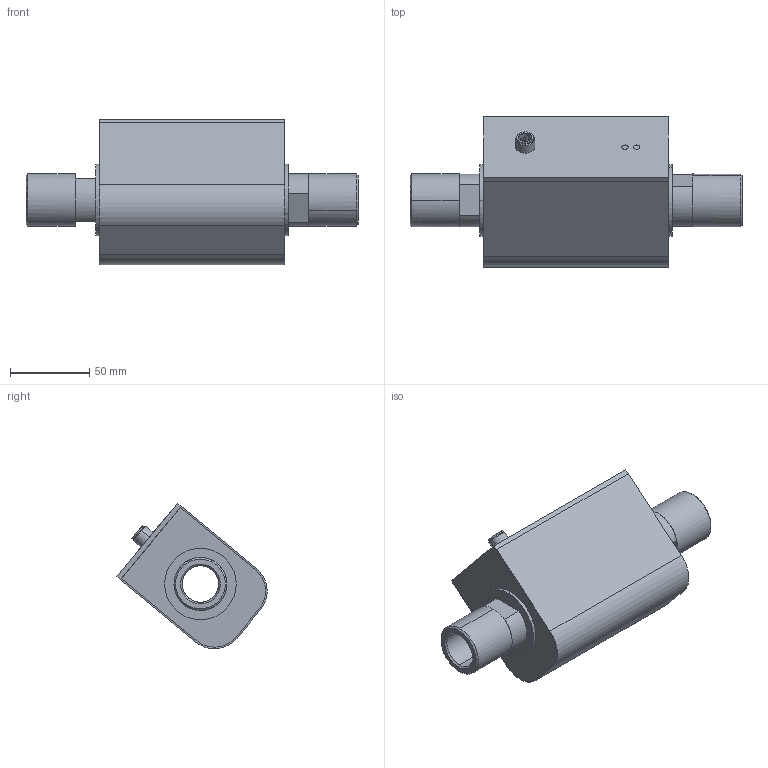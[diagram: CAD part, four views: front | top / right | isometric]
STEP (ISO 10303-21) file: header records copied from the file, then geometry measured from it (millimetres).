
FILE_DESCRIPTION (( 'STEP AP203' ), '1' );
FILE_NAME ('F32_Thread_DN25.STEP', '2020-05-08T08:03:53', ( 'Uživatel systému Windows' ), ( '' ), 'SwSTEP 2.0', 'SolidWorks 2017', '' );
FILE_SCHEMA (( 'CONFIG_CONTROL_DESIGN' ));
Length unit declared in the file: millimetre
Products named in the file (8): FPW_Svìtlovod; FPW_Svìtlovod2; Konektor M12_8pin; F32_Thread_DN25; F32-11-22-3_2019 (F32 G1 šroubení DN23); F32-130-4-3_2019(F32DN25-32 Výpylek èela) ; F32-90-2-6_2019_R1(F32_DN25_Kryt Plech); F32-90-5-3_2019(F32 DN25 閣咜ek Plech bez displeje)
Assembly tree (9 placements, depth 2):
  F32_Thread_DN25
    F32-11-22-3_2019 (F32 G1 šroubení DN23)  x2
    F32-130-4-3_2019(F32DN25-32 Výpylek èela)   x2
    F32-90-2-6_2019_R1(F32_DN25_Kryt Plech)
    F32-90-5-3_2019(F32 DN25 閣咜ek Plech bez displeje)
    FPW_Svìtlovod
    FPW_Svìtlovod2
    Konektor M12_8pin
Bounding box: 209 x 94.65 x 91.59 mm (x, y, z)
Volume: 146148.8 mm3; surface area: 116180 mm2
Topology: 9 solids, 9 shells, 523 faces, 1342 edges, 872 vertices
Faces by surface type: plane 326, cylinder 143, cone 26, bspline 20, torus 8
Entity records: 15457 total; most frequent: CARTESIAN_POINT 2868, ORIENTED_EDGE 2428, DIRECTION 2415, EDGE_CURVE 1214, VECTOR 901, LINE 901, VERTEX_POINT 800, AXIS2_PLACEMENT_3D 757
